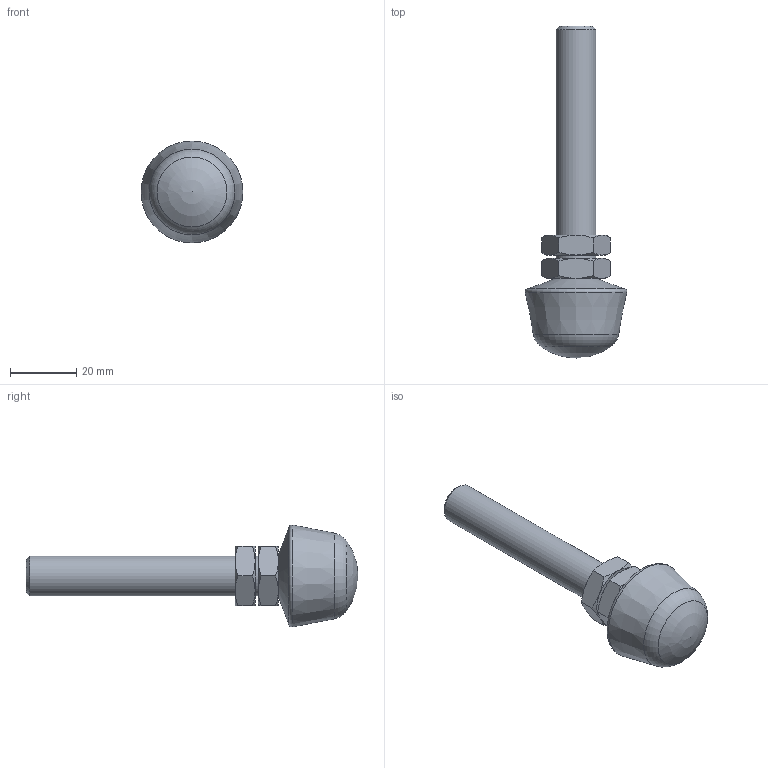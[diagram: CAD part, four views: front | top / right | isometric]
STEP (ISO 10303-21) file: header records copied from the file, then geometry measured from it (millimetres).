
FILE_DESCRIPTION( ( 'STEP AP203' ), '1' );
FILE_NAME( 'C:/Temp/Ganter_Step_05_03_2020/data/2_4/gn_708_1/gn_708_1_ni/Stainless Steel-Clamping bolt GN 708.1-M12-100-B-NI (0).stp', '2020-03-13T05:51:26', ( 'License CC BY-ND 4.0' ), ( 'CADENAS' ), ' ', 'PARTsolutions', ' ' );
FILE_SCHEMA( ( 'CONFIG_CONTROL_DESIGN' ) );
Length unit declared in the file: millimetre
Products named in the file (3): Stainless Steel-Clamping bolt GN 708.1-M12-100-B-NI (0); _Edelstahl-Andrueckschraube GN 708.1-M12-100-B-NI (0)-1; _Edelstahl-Andrueckschraube GN 708.1-M12-100-B-NI-2
Assembly tree (3 placements, depth 2):
  Stainless Steel-Clamping bolt GN 708.1-M12-100-B-NI (0)
    _Edelstahl-Andrueckschraube GN 708.1-M12-100-B-NI (0)-1
    _Edelstahl-Andrueckschraube GN 708.1-M12-100-B-NI-2  x2
Bounding box: 30.71 x 100 x 30.71 mm (x, y, z)
Volume: 23048.7 mm3; surface area: 7360.4 mm2
Topology: 3 solids, 3 shells, 54 faces, 114 edges, 65 vertices
Faces by surface type: cone 31, plane 17, cylinder 3, torus 2, sphere 1
Full cylindrical faces by diameter (mm): 10.106 x2, 12 x1
Entity records: 958 total; most frequent: CARTESIAN_POINT 261, DIRECTION 122, ORIENTED_EDGE 106, AXIS2_PLACEMENT_3D 58, EDGE_CURVE 53, EDGE_LOOP 42, VERTEX_POINT 37, FACE_OUTER_BOUND 35
